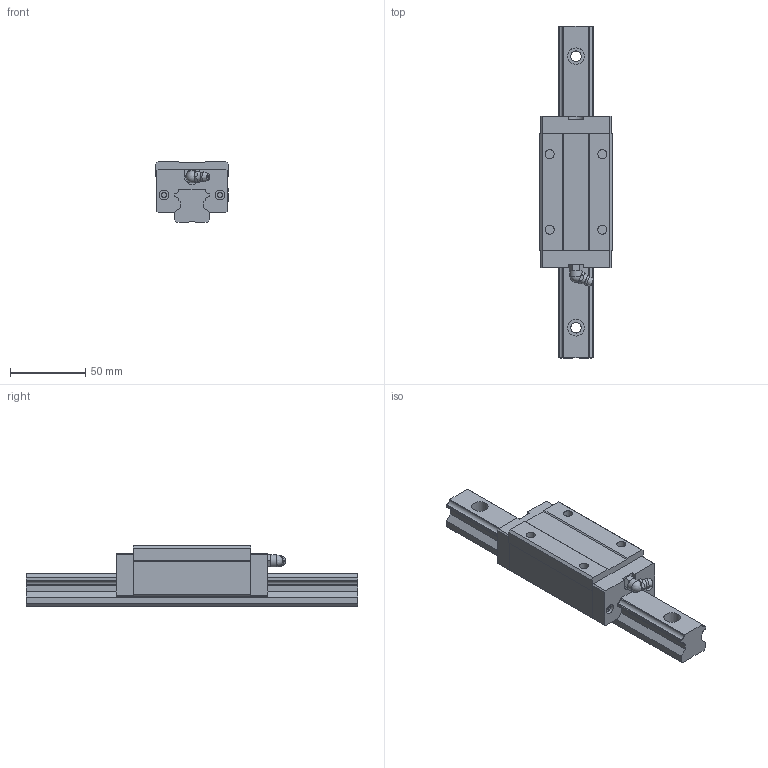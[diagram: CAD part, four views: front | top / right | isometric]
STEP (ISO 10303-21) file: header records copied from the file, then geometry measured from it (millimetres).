
FILE_DESCRIPTION(/* description */ (''),/* implementation_level */ '2;1');
FILE_NAME(/* name */ 'MSA25LS',/* time_stamp */ '2003-12-29T10:35:10+08:00',/* author */ (''),/* organization */ (''),/* preprocessor_version */ 'ST-DEVELOPER v9',/* originating_system */ '',/* authorisation */ '');
FILE_SCHEMA (('CONFIG_CONTROL_DESIGN'));
Length unit declared in the file: millimetre
Products named in the file (1): zirc5932mw8i
Bounding box: 48 x 220 x 40 mm (x, y, z)
Volume: 212263 mm3; surface area: 46919.1 mm2
Topology: 3 solids, 3 shells, 179 faces, 469 edges, 309 vertices
Faces by surface type: plane 136, cylinder 32, torus 7, sphere 2, cone 1, bspline 1
Full cylindrical faces by diameter (mm): 3.25 x4, 6 x4, 6.5 x5, 7 x4, 8 x1, 11 x4
Entity records: 5509 total; most frequent: CARTESIAN_POINT 1082, DIRECTION 884, ORIENTED_EDGE 870, EDGE_CURVE 435, LINE 308, VECTOR 308, VERTEX_POINT 302, AXIS2_PLACEMENT_3D 288
